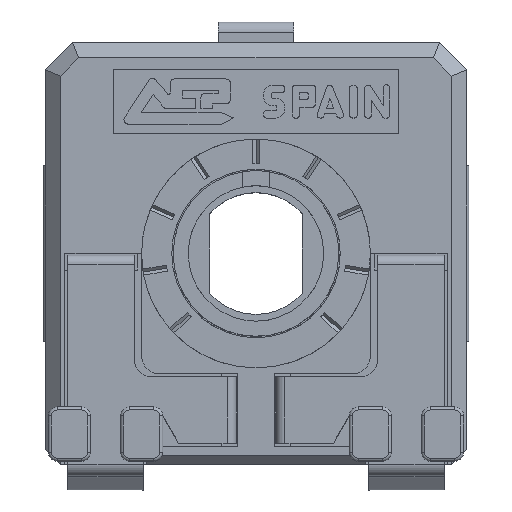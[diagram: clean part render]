
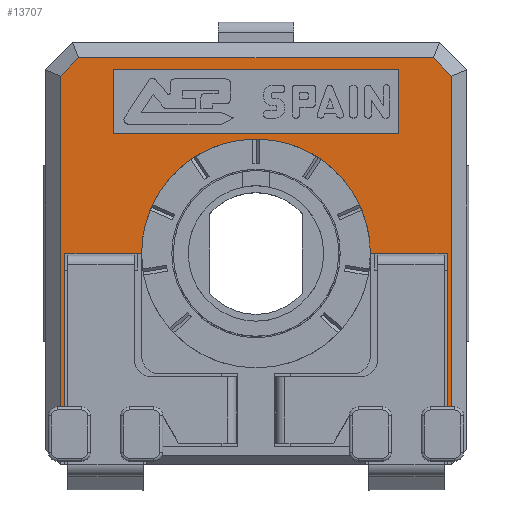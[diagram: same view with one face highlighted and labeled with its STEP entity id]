
A CAD part, top view. The second image highlights one B-rep face of the part: STEP entity #13707.
In plain terms, the highlighted planar face has unit normal (0, 0, 1).
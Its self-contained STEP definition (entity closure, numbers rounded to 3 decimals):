
#148=FACE_BOUND('',#1958,.T.);
#623=CIRCLE('',#14738,3.8);
#1245=FACE_OUTER_BOUND('',#1957,.T.);
#1957=EDGE_LOOP('',(#11701,#11702,#11703,#11704,#11705,#11706,#11707,#11708,
#11709,#11710,#11711,#11712));
#1958=EDGE_LOOP('',(#11713,#11714,#11715,#11716));
#2408=LINE('',#19483,#3945);
#2476=LINE('',#19736,#4013);
#2716=LINE('',#20475,#4253);
#2719=LINE('',#20480,#4256);
#2944=LINE('',#21040,#4481);
#2977=LINE('',#21167,#4514);
#3454=LINE('',#22414,#4991);
#3455=LINE('',#22417,#4992);
#3456=LINE('',#22418,#4993);
#3457=LINE('',#22421,#4994);
#3458=LINE('',#22422,#4995);
#3459=LINE('',#22425,#4996);
#3460=LINE('',#22427,#4997);
#3461=LINE('',#22429,#4998);
#3462=LINE('',#22430,#4999);
#3945=VECTOR('',#15643,10.);
#4013=VECTOR('',#15925,10.);
#4253=VECTOR('',#16447,10.);
#4256=VECTOR('',#16452,10.);
#4481=VECTOR('',#16825,10.);
#4514=VECTOR('',#16900,10.);
#4991=VECTOR('',#18099,10.);
#4992=VECTOR('',#18102,10.);
#4993=VECTOR('',#18103,10.);
#4994=VECTOR('',#18106,10.);
#4995=VECTOR('',#18107,10.);
#4996=VECTOR('',#18108,10.);
#4997=VECTOR('',#18109,10.);
#4998=VECTOR('',#18110,10.);
#4999=VECTOR('',#18111,10.);
#5414=VERTEX_POINT('',#19291);
#5469=VERTEX_POINT('',#19482);
#5546=VERTEX_POINT('',#19733);
#5547=VERTEX_POINT('',#19735);
#5594=VERTEX_POINT('',#19889);
#5595=VERTEX_POINT('',#19891);
#5748=VERTEX_POINT('',#20471);
#5749=VERTEX_POINT('',#20473);
#5914=VERTEX_POINT('',#21036);
#5940=VERTEX_POINT('',#21166);
#6303=VERTEX_POINT('',#22416);
#6304=VERTEX_POINT('',#22420);
#6305=VERTEX_POINT('',#22423);
#6306=VERTEX_POINT('',#22424);
#6307=VERTEX_POINT('',#22426);
#6308=VERTEX_POINT('',#22428);
#6847=EDGE_CURVE('',#5469,#5414,#2408,.T.);
#6973=EDGE_CURVE('',#5547,#5546,#2476,.T.);
#7277=EDGE_CURVE('',#5749,#5748,#2716,.T.);
#7280=EDGE_CURVE('',#5748,#5546,#2719,.T.);
#7526=EDGE_CURVE('',#5469,#5914,#2944,.T.);
#7571=EDGE_CURVE('',#5914,#5940,#2977,.T.);
#8167=EDGE_CURVE('',#5940,#5749,#3454,.T.);
#8168=EDGE_CURVE('',#5414,#6303,#3455,.T.);
#8169=EDGE_CURVE('',#6303,#5595,#3456,.T.);
#8170=EDGE_CURVE('',#5595,#5594,#623,.T.);
#8171=EDGE_CURVE('',#5594,#6304,#3457,.T.);
#8172=EDGE_CURVE('',#6304,#5547,#3458,.T.);
#8173=EDGE_CURVE('',#6305,#6306,#3459,.T.);
#8174=EDGE_CURVE('',#6306,#6307,#3460,.T.);
#8175=EDGE_CURVE('',#6307,#6308,#3461,.T.);
#8176=EDGE_CURVE('',#6308,#6305,#3462,.T.);
#11701=ORIENTED_EDGE('',*,*,#6847,.T.);
#11702=ORIENTED_EDGE('',*,*,#8168,.T.);
#11703=ORIENTED_EDGE('',*,*,#8169,.T.);
#11704=ORIENTED_EDGE('',*,*,#8170,.T.);
#11705=ORIENTED_EDGE('',*,*,#8171,.T.);
#11706=ORIENTED_EDGE('',*,*,#8172,.T.);
#11707=ORIENTED_EDGE('',*,*,#6973,.T.);
#11708=ORIENTED_EDGE('',*,*,#7280,.F.);
#11709=ORIENTED_EDGE('',*,*,#7277,.F.);
#11710=ORIENTED_EDGE('',*,*,#8167,.F.);
#11711=ORIENTED_EDGE('',*,*,#7571,.F.);
#11712=ORIENTED_EDGE('',*,*,#7526,.F.);
#11713=ORIENTED_EDGE('',*,*,#8173,.T.);
#11714=ORIENTED_EDGE('',*,*,#8174,.T.);
#11715=ORIENTED_EDGE('',*,*,#8175,.T.);
#11716=ORIENTED_EDGE('',*,*,#8176,.T.);
#12775=PLANE('',#14737);
#13707=ADVANCED_FACE('',(#1245,#148),#12775,.T.);
#14737=AXIS2_PLACEMENT_3D('',#22415,#18100,#18101);
#14738=AXIS2_PLACEMENT_3D('',#22419,#18104,#18105);
#15643=DIRECTION('',(1.,0.,0.));
#15925=DIRECTION('',(1.,0.,0.));
#16447=DIRECTION('',(0.707,-0.707,0.));
#16452=DIRECTION('',(0.,-1.,0.));
#16825=DIRECTION('',(0.,1.,0.));
#16900=DIRECTION('',(0.707,0.707,0.));
#18099=DIRECTION('',(1.,0.,0.));
#18100=DIRECTION('center_axis',(0.,0.,1.));
#18101=DIRECTION('ref_axis',(1.,0.,0.));
#18102=DIRECTION('',(0.,1.,0.));
#18103=DIRECTION('',(1.,0.,0.));
#18104=DIRECTION('center_axis',(0.,0.,-1.));
#18105=DIRECTION('ref_axis',(-1.,0.,0.));
#18106=DIRECTION('',(1.,0.,0.));
#18107=DIRECTION('',(0.,-1.,0.));
#18108=DIRECTION('',(0.,-1.,0.));
#18109=DIRECTION('',(-1.,0.,0.));
#18110=DIRECTION('',(0.,1.,0.));
#18111=DIRECTION('',(1.,0.,0.));
#19291=CARTESIAN_POINT('',(-13.817,-7.998,4.4));
#19482=CARTESIAN_POINT('',(-13.967,-7.998,4.4));
#19483=CARTESIAN_POINT('',(-10.217,-7.998,4.4));
#19733=CARTESIAN_POINT('',(-0.967,-7.998,4.4));
#19735=CARTESIAN_POINT('',(-1.117,-7.998,4.4));
#19736=CARTESIAN_POINT('',(-4.017,-7.998,4.4));
#19889=CARTESIAN_POINT('',(-3.667,-2.898,4.4));
#19891=CARTESIAN_POINT('',(-11.267,-2.898,4.4));
#20471=CARTESIAN_POINT('',(-0.967,2.994,4.4));
#20473=CARTESIAN_POINT('',(-1.574,3.602,4.4));
#20475=CARTESIAN_POINT('',(-1.271,3.298,4.4));
#20480=CARTESIAN_POINT('',(-0.967,0.602,4.4));
#21036=CARTESIAN_POINT('',(-13.967,2.994,4.4));
#21040=CARTESIAN_POINT('',(-13.967,-6.398,4.4));
#21166=CARTESIAN_POINT('',(-13.36,3.602,4.4));
#21167=CARTESIAN_POINT('',(-13.663,3.298,4.4));
#22414=CARTESIAN_POINT('',(-10.967,3.602,4.4));
#22415=CARTESIAN_POINT('Origin',(-7.467,-2.898,4.4));
#22416=CARTESIAN_POINT('',(-13.817,-2.898,4.4));
#22417=CARTESIAN_POINT('',(-13.817,-3.173,4.4));
#22418=CARTESIAN_POINT('',(-9.442,-2.898,4.4));
#22419=CARTESIAN_POINT('Origin',(-7.467,-2.898,4.4));
#22420=CARTESIAN_POINT('',(-1.117,-2.898,4.4));
#22421=CARTESIAN_POINT('',(-5.492,-2.898,4.4));
#22422=CARTESIAN_POINT('',(-1.117,-2.898,4.4));
#22423=CARTESIAN_POINT('',(-2.717,3.202,4.4));
#22424=CARTESIAN_POINT('',(-2.717,1.102,4.4));
#22425=CARTESIAN_POINT('',(-2.717,-0.898,4.4));
#22426=CARTESIAN_POINT('',(-12.217,1.102,4.4));
#22427=CARTESIAN_POINT('',(-9.842,1.102,4.4));
#22428=CARTESIAN_POINT('',(-12.217,3.202,4.4));
#22429=CARTESIAN_POINT('',(-12.217,0.152,4.4));
#22430=CARTESIAN_POINT('',(-5.092,3.202,4.4));
